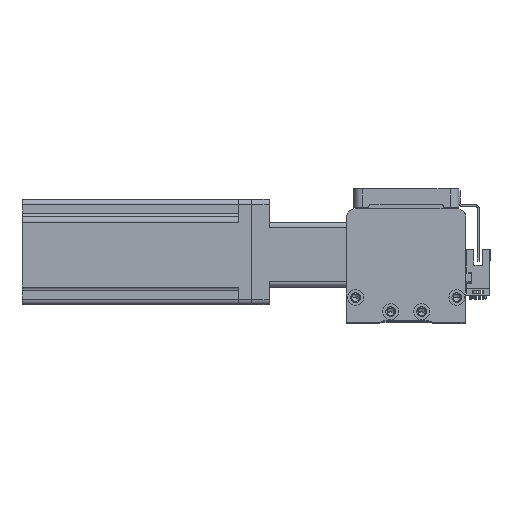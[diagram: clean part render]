
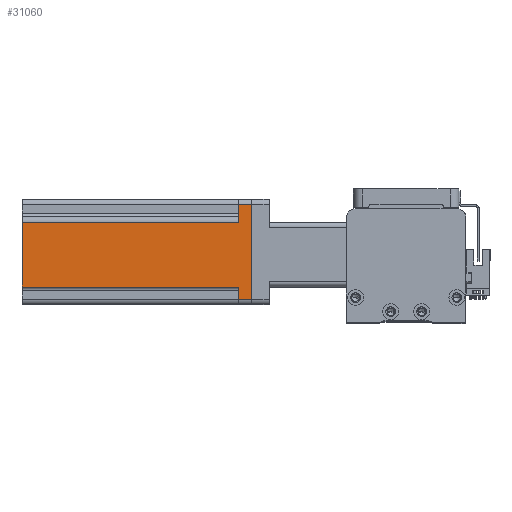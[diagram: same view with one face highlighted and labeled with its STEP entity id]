
A CAD part, top view. The second image highlights one B-rep face of the part: STEP entity #31060.
In plain terms, the highlighted planar face has unit normal (0, 0, 1) as drawn and (-1, 0, 0) by its records, which use the part's own axes.
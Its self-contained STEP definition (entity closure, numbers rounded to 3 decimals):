
#1429 = ORIENTED_EDGE ( 'NONE', *, *, #9655, .T. ) ;
#1721 = CARTESIAN_POINT ( 'NONE',  ( -30., -30., 130.7 ) ) ;
#2758 = LINE ( 'NONE', #8161, #27159 ) ;
#2892 = DIRECTION ( 'NONE',  ( 0., -1., 0. ) ) ;
#3241 = EDGE_LOOP ( 'NONE', ( #10377, #10060, #28114, #6880, #5885, #37009, #1429, #14044 ) ) ;
#3273 = LINE ( 'NONE', #16884, #36240 ) ;
#4632 = VECTOR ( 'NONE', #16791, 1000. ) ;
#4901 = DIRECTION ( 'NONE',  ( 0., 0., -1. ) ) ;
#5885 = ORIENTED_EDGE ( 'NONE', *, *, #25871, .T. ) ;
#5941 = EDGE_CURVE ( 'NONE', #25708, #31299, #20570, .T. ) ;
#5947 = LINE ( 'NONE', #8696, #21894 ) ;
#6880 = ORIENTED_EDGE ( 'NONE', *, *, #5941, .F. ) ;
#7076 = CARTESIAN_POINT ( 'NONE',  ( -30., 27., 0. ) ) ;
#7636 = LINE ( 'NONE', #32631, #40591 ) ;
#7809 = LINE ( 'NONE', #33881, #32316 ) ;
#7891 = VERTEX_POINT ( 'NONE', #7076 ) ;
#8161 = CARTESIAN_POINT ( 'NONE',  ( -30., -27., 130.7 ) ) ;
#8696 = CARTESIAN_POINT ( 'NONE',  ( -30., -17., 130.7 ) ) ;
#9339 = VERTEX_POINT ( 'NONE', #10858 ) ;
#9655 = EDGE_CURVE ( 'NONE', #7891, #24904, #24221, .T. ) ;
#10060 = ORIENTED_EDGE ( 'NONE', *, *, #37988, .T. ) ;
#10377 = ORIENTED_EDGE ( 'NONE', *, *, #27935, .F. ) ;
#10858 = CARTESIAN_POINT ( 'NONE',  ( -30., -17., 7.5 ) ) ;
#10985 = EDGE_CURVE ( 'NONE', #30483, #7891, #12293, .T. ) ;
#12293 = LINE ( 'NONE', #28643, #20790 ) ;
#12758 = DIRECTION ( 'NONE',  ( 0., 0., -1. ) ) ;
#13587 = DIRECTION ( 'NONE',  ( 0., -1., 0. ) ) ;
#14044 = ORIENTED_EDGE ( 'NONE', *, *, #39660, .T. ) ;
#14464 = CARTESIAN_POINT ( 'NONE',  ( -30., -27., 0. ) ) ;
#16791 = DIRECTION ( 'NONE',  ( 0., 0., 1. ) ) ;
#16884 = CARTESIAN_POINT ( 'NONE',  ( -30., 30., 7.5 ) ) ;
#18014 = FACE_OUTER_BOUND ( 'NONE', #3241, .T. ) ;
#19923 = VERTEX_POINT ( 'NONE', #31754 ) ;
#19979 = CARTESIAN_POINT ( 'NONE',  ( -30., 20., 7.5 ) ) ;
#20570 = LINE ( 'NONE', #19979, #4632 ) ;
#20790 = VECTOR ( 'NONE', #12758, 1000. ) ;
#21117 = DIRECTION ( 'NONE',  ( 0., -1., 0. ) ) ;
#21894 = VECTOR ( 'NONE', #37607, 1000. ) ;
#22614 = CARTESIAN_POINT ( 'NONE',  ( -30., 20., 7.5 ) ) ;
#23250 = EDGE_CURVE ( 'NONE', #31299, #19923, #7636, .T. ) ;
#23996 = DIRECTION ( 'NONE',  ( 1., 0., 0. ) ) ;
#24221 = LINE ( 'NONE', #34729, #40207 ) ;
#24904 = VERTEX_POINT ( 'NONE', #14464 ) ;
#25708 = VERTEX_POINT ( 'NONE', #22614 ) ;
#25871 = EDGE_CURVE ( 'NONE', #25708, #30483, #3273, .T. ) ;
#26502 = DIRECTION ( 'NONE',  ( 0., 1., 0. ) ) ;
#26516 = VERTEX_POINT ( 'NONE', #41063 ) ;
#26932 = CARTESIAN_POINT ( 'NONE',  ( -30., 27., 7.5 ) ) ;
#27159 = VECTOR ( 'NONE', #30519, 1000. ) ;
#27211 = AXIS2_PLACEMENT_3D ( 'NONE', #1721, #23996, #4901 ) ;
#27935 = EDGE_CURVE ( 'NONE', #9339, #26516, #7809, .T. ) ;
#28114 = ORIENTED_EDGE ( 'NONE', *, *, #23250, .F. ) ;
#28643 = CARTESIAN_POINT ( 'NONE',  ( -30., 27., 130.7 ) ) ;
#30328 = PLANE ( 'NONE',  #27211 ) ;
#30483 = VERTEX_POINT ( 'NONE', #26932 ) ;
#30519 = DIRECTION ( 'NONE',  ( 0., 0., 1. ) ) ;
#31060 = ADVANCED_FACE ( 'NONE', ( #18014 ), #30328, .F. ) ;
#31299 = VERTEX_POINT ( 'NONE', #38115 ) ;
#31754 = CARTESIAN_POINT ( 'NONE',  ( -30., -17., 130.7 ) ) ;
#32316 = VECTOR ( 'NONE', #21117, 1000. ) ;
#32631 = CARTESIAN_POINT ( 'NONE',  ( -30., -30., 130.7 ) ) ;
#33881 = CARTESIAN_POINT ( 'NONE',  ( -30., -30., 7.5 ) ) ;
#34729 = CARTESIAN_POINT ( 'NONE',  ( -30., -30., 0. ) ) ;
#36240 = VECTOR ( 'NONE', #26502, 1000. ) ;
#37009 = ORIENTED_EDGE ( 'NONE', *, *, #10985, .T. ) ;
#37607 = DIRECTION ( 'NONE',  ( 0., 0., 1. ) ) ;
#37988 = EDGE_CURVE ( 'NONE', #9339, #19923, #5947, .T. ) ;
#38115 = CARTESIAN_POINT ( 'NONE',  ( -30., 20., 130.7 ) ) ;
#39660 = EDGE_CURVE ( 'NONE', #24904, #26516, #2758, .T. ) ;
#40207 = VECTOR ( 'NONE', #2892, 1000. ) ;
#40591 = VECTOR ( 'NONE', #13587, 1000. ) ;
#41063 = CARTESIAN_POINT ( 'NONE',  ( -30., -27., 7.5 ) ) ;
